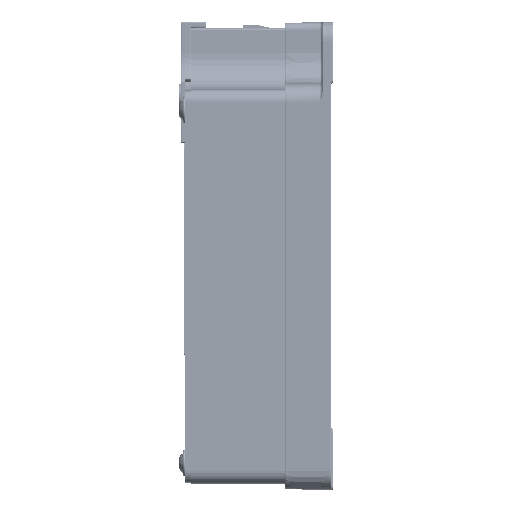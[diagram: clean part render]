
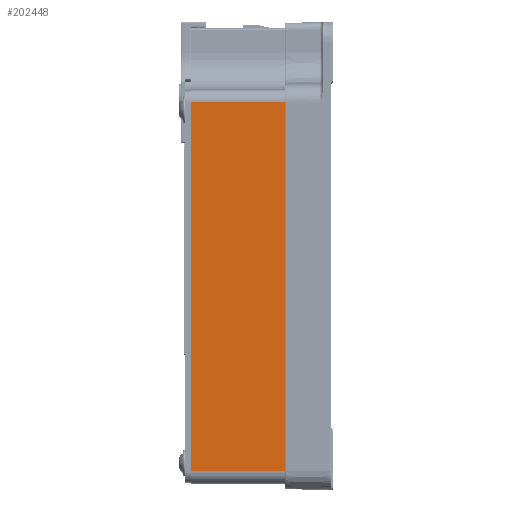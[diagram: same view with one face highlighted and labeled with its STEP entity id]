
A CAD part, left-side view. The second image highlights one B-rep face of the part: STEP entity #202448.
In plain terms, the highlighted planar face has unit normal (-1, 0, 0).
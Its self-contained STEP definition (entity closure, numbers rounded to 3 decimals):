
#6047 = EDGE_CURVE ( 'NONE', #217069, #187453, #215243, .T. ) ;
#37804 = DIRECTION ( 'NONE',  ( 0., 1., 0. ) ) ;
#47107 = ORIENTED_EDGE ( 'NONE', *, *, #207338, .T. ) ;
#61555 = VECTOR ( 'NONE', #368086, 1000. ) ;
#68116 = CARTESIAN_POINT ( 'NONE',  ( -83.315, 37., 41.15 ) ) ;
#72070 = FACE_OUTER_BOUND ( 'NONE', #314353, .T. ) ;
#72403 = ORIENTED_EDGE ( 'NONE', *, *, #288245, .F. ) ;
#102514 = LINE ( 'NONE', #160940, #353288 ) ;
#113094 = LINE ( 'NONE', #229957, #229977 ) ;
#118316 = ORIENTED_EDGE ( 'NONE', *, *, #139411, .T. ) ;
#136231 = ORIENTED_EDGE ( 'NONE', *, *, #6047, .T. ) ;
#139411 = EDGE_CURVE ( 'NONE', #298685, #217069, #220951, .T. ) ;
#143870 = VERTEX_POINT ( 'NONE', #264588 ) ;
#160940 = CARTESIAN_POINT ( 'NONE',  ( -83.315, 37., -57.51 ) ) ;
#169924 = CARTESIAN_POINT ( 'NONE',  ( -83.315, 10.6, -60.83 ) ) ;
#187153 = PLANE ( 'NONE',  #314204 ) ;
#187453 = VERTEX_POINT ( 'NONE', #312799 ) ;
#190868 = CARTESIAN_POINT ( 'NONE',  ( -83.315, 37., -60.83 ) ) ;
#192741 = DIRECTION ( 'NONE',  ( 0., 0., -1. ) ) ;
#202448 = ADVANCED_FACE ( 'NONE', ( #72070 ), #187153, .F. ) ;
#207338 = EDGE_CURVE ( 'NONE', #143870, #298685, #102514, .T. ) ;
#215243 = LINE ( 'NONE', #68116, #238608 ) ;
#217069 = VERTEX_POINT ( 'NONE', #263816 ) ;
#220951 = LINE ( 'NONE', #169924, #61555 ) ;
#227736 = CARTESIAN_POINT ( 'NONE',  ( -83.315, 10.6, -57.51 ) ) ;
#228081 = DIRECTION ( 'NONE',  ( 0., 0., 1. ) ) ;
#229957 = CARTESIAN_POINT ( 'NONE',  ( -83.315, 37., -60.83 ) ) ;
#229977 = VECTOR ( 'NONE', #228081, 1000. ) ;
#238608 = VECTOR ( 'NONE', #37804, 1000. ) ;
#263816 = CARTESIAN_POINT ( 'NONE',  ( -83.315, 10.6, 41.15 ) ) ;
#264588 = CARTESIAN_POINT ( 'NONE',  ( -83.315, 37., -57.51 ) ) ;
#275949 = DIRECTION ( 'NONE',  ( 0., -1., 0. ) ) ;
#288245 = EDGE_CURVE ( 'NONE', #143870, #187453, #113094, .T. ) ;
#298685 = VERTEX_POINT ( 'NONE', #227736 ) ;
#305843 = DIRECTION ( 'NONE',  ( 1., 0., 0. ) ) ;
#312799 = CARTESIAN_POINT ( 'NONE',  ( -83.315, 37., 41.15 ) ) ;
#314204 = AXIS2_PLACEMENT_3D ( 'NONE', #190868, #305843, #192741 ) ;
#314353 = EDGE_LOOP ( 'NONE', ( #72403, #47107, #118316, #136231 ) ) ;
#353288 = VECTOR ( 'NONE', #275949, 1000. ) ;
#368086 = DIRECTION ( 'NONE',  ( 0., 0., 1. ) ) ;
